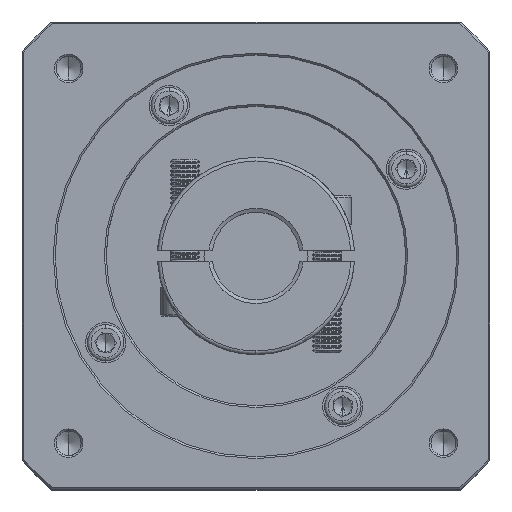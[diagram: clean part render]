
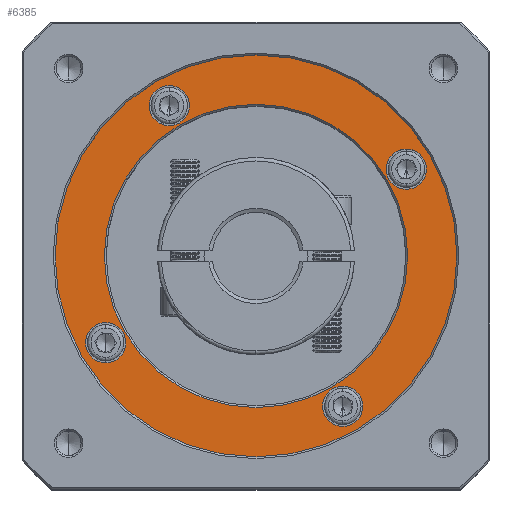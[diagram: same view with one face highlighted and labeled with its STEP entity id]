
A CAD part, top view. The second image highlights one B-rep face of the part: STEP entity #6385.
In plain terms, the highlighted planar face has unit normal (0, 0, 1).
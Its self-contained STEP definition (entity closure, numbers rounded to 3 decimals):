
#227 = EDGE_LOOP ( 'NONE', ( #135777, #70059 ) ) ;
#988 = EDGE_LOOP ( 'NONE', ( #62273, #11313 ) ) ;
#1115 = DIRECTION ( 'NONE',  ( 0., 0., -1. ) ) ;
#1258 = FACE_BOUND ( 'NONE', #49448, .T. ) ;
#1483 = CARTESIAN_POINT ( 'NONE',  ( 124.65, 110.761, 51.74 ) ) ;
#3624 = DIRECTION ( 'NONE',  ( 0., -1., 0. ) ) ;
#4362 = ORIENTED_EDGE ( 'NONE', *, *, #36534, .T. ) ;
#5908 = ORIENTED_EDGE ( 'NONE', *, *, #134056, .T. ) ;
#6385 = ADVANCED_FACE ( 'NONE', ( #61406, #29656, #1258, #76443, #54723, #136556 ), #8019, .T. ) ;
#7574 = DIRECTION ( 'NONE',  ( 0., 0., 1. ) ) ;
#8019 = PLANE ( 'NONE',  #110909 ) ;
#9314 = AXIS2_PLACEMENT_3D ( 'NONE', #53760, #105699, #74274 ) ;
#11023 = ORIENTED_EDGE ( 'NONE', *, *, #92063, .T. ) ;
#11313 = ORIENTED_EDGE ( 'NONE', *, *, #78252, .T. ) ;
#15837 = AXIS2_PLACEMENT_3D ( 'NONE', #105799, #127651, #73908 ) ;
#15931 = DIRECTION ( 'NONE',  ( -1., 0., 0. ) ) ;
#17837 = CARTESIAN_POINT ( 'NONE',  ( 42.378, 57.761, 51.74 ) ) ;
#18877 = CIRCLE ( 'NONE', #53082, 5.5 ) ;
#19889 = CARTESIAN_POINT ( 'NONE',  ( 124.65, 105.261, 51.74 ) ) ;
#21524 = CARTESIAN_POINT ( 'NONE',  ( 42.378, 63.261, 51.74 ) ) ;
#23767 = VERTEX_POINT ( 'NONE', #81377 ) ;
#25306 = EDGE_CURVE ( 'NONE', #36842, #123244, #48273, .T. ) ;
#25935 = CIRCLE ( 'NONE', #93991, 5.5 ) ;
#27567 = ORIENTED_EDGE ( 'NONE', *, *, #70488, .T. ) ;
#29014 = CARTESIAN_POINT ( 'NONE',  ( 83.514, 81.511, 51.74 ) ) ;
#29656 = FACE_BOUND ( 'NONE', #227, .T. ) ;
#30646 = DIRECTION ( 'NONE',  ( 0., 0., -1. ) ) ;
#31320 = DIRECTION ( 'NONE',  ( 0., -1., 0. ) ) ;
#33248 = VERTEX_POINT ( 'NONE', #66615 ) ;
#35099 = EDGE_LOOP ( 'NONE', ( #11023, #27567 ) ) ;
#36534 = EDGE_CURVE ( 'NONE', #23767, #71801, #110506, .T. ) ;
#36842 = VERTEX_POINT ( 'NONE', #38769 ) ;
#37603 = CARTESIAN_POINT ( 'NONE',  ( 42.014, 81.511, 51.74 ) ) ;
#38769 = CARTESIAN_POINT ( 'NONE',  ( 125.014, 81.511, 51.74 ) ) ;
#40246 = DIRECTION ( 'NONE',  ( 0., -1., 0. ) ) ;
#40461 = EDGE_CURVE ( 'NONE', #125529, #33248, #50279, .T. ) ;
#41826 = ORIENTED_EDGE ( 'NONE', *, *, #56233, .T. ) ;
#43365 = CIRCLE ( 'NONE', #82386, 41.5 ) ;
#45396 = DIRECTION ( 'NONE',  ( 0., -1., 0. ) ) ;
#46541 = DIRECTION ( 'NONE',  ( 0., 0., -1. ) ) ;
#47711 = CARTESIAN_POINT ( 'NONE',  ( 83.514, 81.511, 51.74 ) ) ;
#48273 = CIRCLE ( 'NONE', #50816, 41.5 ) ;
#48512 = CARTESIAN_POINT ( 'NONE',  ( 83.514, 81.511, 51.74 ) ) ;
#49448 = EDGE_LOOP ( 'NONE', ( #50339, #101215 ) ) ;
#50123 = DIRECTION ( 'NONE',  ( 0., 0., -1. ) ) ;
#50279 = CIRCLE ( 'NONE', #76400, 5.5 ) ;
#50339 = ORIENTED_EDGE ( 'NONE', *, *, #40461, .T. ) ;
#50816 = AXIS2_PLACEMENT_3D ( 'NONE', #47711, #121985, #15931 ) ;
#53082 = AXIS2_PLACEMENT_3D ( 'NONE', #132028, #46541, #3624 ) ;
#53760 = CARTESIAN_POINT ( 'NONE',  ( 59.764, 122.648, 51.74 ) ) ;
#54723 = FACE_BOUND ( 'NONE', #988, .T. ) ;
#56233 = EDGE_CURVE ( 'NONE', #95557, #89136, #18877, .T. ) ;
#56340 = EDGE_CURVE ( 'NONE', #111750, #80495, #138300, .T. ) ;
#56383 = DIRECTION ( 'NONE',  ( 0., 0., -1. ) ) ;
#58764 = EDGE_LOOP ( 'NONE', ( #41826, #104528 ) ) ;
#59776 = DIRECTION ( 'NONE',  ( 0., 0., -1. ) ) ;
#61140 = CARTESIAN_POINT ( 'NONE',  ( 107.264, 40.375, 51.74 ) ) ;
#61406 = FACE_OUTER_BOUND ( 'NONE', #35099, .T. ) ;
#62273 = ORIENTED_EDGE ( 'NONE', *, *, #56340, .T. ) ;
#63715 = AXIS2_PLACEMENT_3D ( 'NONE', #116845, #116388, #31320 ) ;
#65131 = AXIS2_PLACEMENT_3D ( 'NONE', #48512, #101379, #122812 ) ;
#66475 = VERTEX_POINT ( 'NONE', #91550 ) ;
#66615 = CARTESIAN_POINT ( 'NONE',  ( 107.264, 45.875, 51.74 ) ) ;
#70059 = ORIENTED_EDGE ( 'NONE', *, *, #25306, .T. ) ;
#70488 = EDGE_CURVE ( 'NONE', #120680, #66475, #81427, .T. ) ;
#71801 = VERTEX_POINT ( 'NONE', #1483 ) ;
#73908 = DIRECTION ( 'NONE',  ( 0., -1., 0. ) ) ;
#74274 = DIRECTION ( 'NONE',  ( 0., -1., 0. ) ) ;
#76309 = CARTESIAN_POINT ( 'NONE',  ( 42.378, 57.761, 51.74 ) ) ;
#76400 = AXIS2_PLACEMENT_3D ( 'NONE', #61140, #59776, #135823 ) ;
#76443 = FACE_BOUND ( 'NONE', #135333, .T. ) ;
#76490 = CARTESIAN_POINT ( 'NONE',  ( 83.514, 81.511, 51.74 ) ) ;
#77452 = CARTESIAN_POINT ( 'NONE',  ( 83.514, 136.511, 51.74 ) ) ;
#78252 = EDGE_CURVE ( 'NONE', #80495, #111750, #79066, .T. ) ;
#79066 = CIRCLE ( 'NONE', #130663, 5.5 ) ;
#79159 = EDGE_CURVE ( 'NONE', #123244, #36842, #43365, .T. ) ;
#80495 = VERTEX_POINT ( 'NONE', #21524 ) ;
#80761 = CIRCLE ( 'NONE', #63715, 5.5 ) ;
#80834 = CARTESIAN_POINT ( 'NONE',  ( 107.264, 34.875, 51.74 ) ) ;
#81377 = CARTESIAN_POINT ( 'NONE',  ( 124.65, 99.761, 51.74 ) ) ;
#81427 = CIRCLE ( 'NONE', #90147, 55. ) ;
#82277 = DIRECTION ( 'NONE',  ( 0., -1., 0. ) ) ;
#82386 = AXIS2_PLACEMENT_3D ( 'NONE', #76490, #56383, #130654 ) ;
#82443 = EDGE_CURVE ( 'NONE', #33248, #125529, #80761, .T. ) ;
#83539 = AXIS2_PLACEMENT_3D ( 'NONE', #17837, #50123, #40246 ) ;
#85760 = CARTESIAN_POINT ( 'NONE',  ( 42.378, 52.261, 51.74 ) ) ;
#89136 = VERTEX_POINT ( 'NONE', #135701 ) ;
#90147 = AXIS2_PLACEMENT_3D ( 'NONE', #114139, #114592, #105271 ) ;
#90869 = CIRCLE ( 'NONE', #9314, 5.5 ) ;
#91550 = CARTESIAN_POINT ( 'NONE',  ( 83.514, 26.511, 51.74 ) ) ;
#92063 = EDGE_CURVE ( 'NONE', #66475, #120680, #126613, .T. ) ;
#93991 = AXIS2_PLACEMENT_3D ( 'NONE', #19889, #30646, #126865 ) ;
#95557 = VERTEX_POINT ( 'NONE', #135530 ) ;
#101215 = ORIENTED_EDGE ( 'NONE', *, *, #82443, .T. ) ;
#101379 = DIRECTION ( 'NONE',  ( 0., 0., 1. ) ) ;
#104528 = ORIENTED_EDGE ( 'NONE', *, *, #130129, .T. ) ;
#105271 = DIRECTION ( 'NONE',  ( 0., -1., 0. ) ) ;
#105699 = DIRECTION ( 'NONE',  ( 0., 0., -1. ) ) ;
#105799 = CARTESIAN_POINT ( 'NONE',  ( 124.65, 105.261, 51.74 ) ) ;
#110506 = CIRCLE ( 'NONE', #15837, 5.5 ) ;
#110909 = AXIS2_PLACEMENT_3D ( 'NONE', #29014, #7574, #82277 ) ;
#111750 = VERTEX_POINT ( 'NONE', #85760 ) ;
#114139 = CARTESIAN_POINT ( 'NONE',  ( 83.514, 81.511, 51.74 ) ) ;
#114592 = DIRECTION ( 'NONE',  ( 0., 0., 1. ) ) ;
#116388 = DIRECTION ( 'NONE',  ( 0., 0., -1. ) ) ;
#116845 = CARTESIAN_POINT ( 'NONE',  ( 107.264, 40.375, 51.74 ) ) ;
#120680 = VERTEX_POINT ( 'NONE', #77452 ) ;
#121985 = DIRECTION ( 'NONE',  ( 0., 0., -1. ) ) ;
#122812 = DIRECTION ( 'NONE',  ( 0., -1., 0. ) ) ;
#123244 = VERTEX_POINT ( 'NONE', #37603 ) ;
#125529 = VERTEX_POINT ( 'NONE', #80834 ) ;
#126613 = CIRCLE ( 'NONE', #65131, 55. ) ;
#126865 = DIRECTION ( 'NONE',  ( 0., -1., 0. ) ) ;
#127651 = DIRECTION ( 'NONE',  ( 0., 0., -1. ) ) ;
#130129 = EDGE_CURVE ( 'NONE', #89136, #95557, #90869, .T. ) ;
#130654 = DIRECTION ( 'NONE',  ( -1., 0., 0. ) ) ;
#130663 = AXIS2_PLACEMENT_3D ( 'NONE', #76309, #1115, #45396 ) ;
#132028 = CARTESIAN_POINT ( 'NONE',  ( 59.764, 122.648, 51.74 ) ) ;
#134056 = EDGE_CURVE ( 'NONE', #71801, #23767, #25935, .T. ) ;
#135333 = EDGE_LOOP ( 'NONE', ( #4362, #5908 ) ) ;
#135530 = CARTESIAN_POINT ( 'NONE',  ( 59.764, 117.148, 51.74 ) ) ;
#135701 = CARTESIAN_POINT ( 'NONE',  ( 59.764, 128.148, 51.74 ) ) ;
#135777 = ORIENTED_EDGE ( 'NONE', *, *, #79159, .T. ) ;
#135823 = DIRECTION ( 'NONE',  ( 0., -1., 0. ) ) ;
#136556 = FACE_BOUND ( 'NONE', #58764, .T. ) ;
#138300 = CIRCLE ( 'NONE', #83539, 5.5 ) ;
